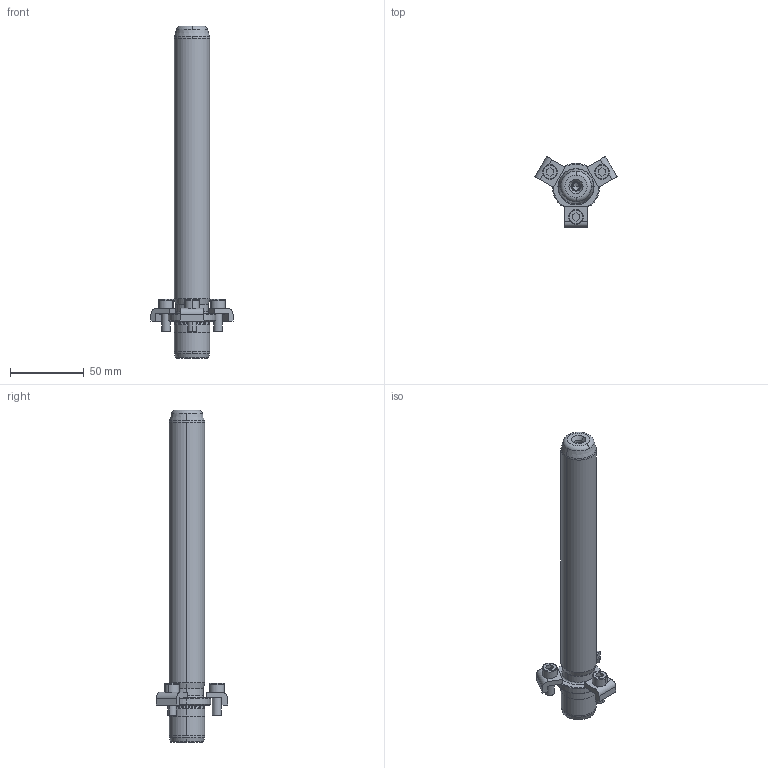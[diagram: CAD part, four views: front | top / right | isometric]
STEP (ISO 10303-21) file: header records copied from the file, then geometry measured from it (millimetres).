
FILE_DESCRIPTION((''),'2;1');
FILE_NAME('P21_024_200.stp','2008-12-23T09:28:39',(''),(''),'Mechanical Desktop 2009','Mechanical Desktop 2009',', , ');
FILE_SCHEMA(('CONFIG_CONTROL_DESIGN'));
Length unit declared in the file: millimetre
Products named in the file (2): Product; blmdl1
Assembly tree (1 placements, depth 2):
  Product
    blmdl1
Bounding box: 55.58 x 48.13 x 225 mm (x, y, z)
Volume: 106441.9 mm3; surface area: 23620.5 mm2
Topology: 7 solids, 7 shells, 163 faces, 417 edges, 269 vertices
Faces by surface type: plane 59, cylinder 44, cone 32, torus 14, bspline 14
Entity records: 5679 total; most frequent: CARTESIAN_POINT 1511, DIRECTION 914, ORIENTED_EDGE 826, EDGE_CURVE 413, AXIS2_PLACEMENT_3D 362, VERTEX_POINT 269, CIRCLE 211, VECTOR 190
